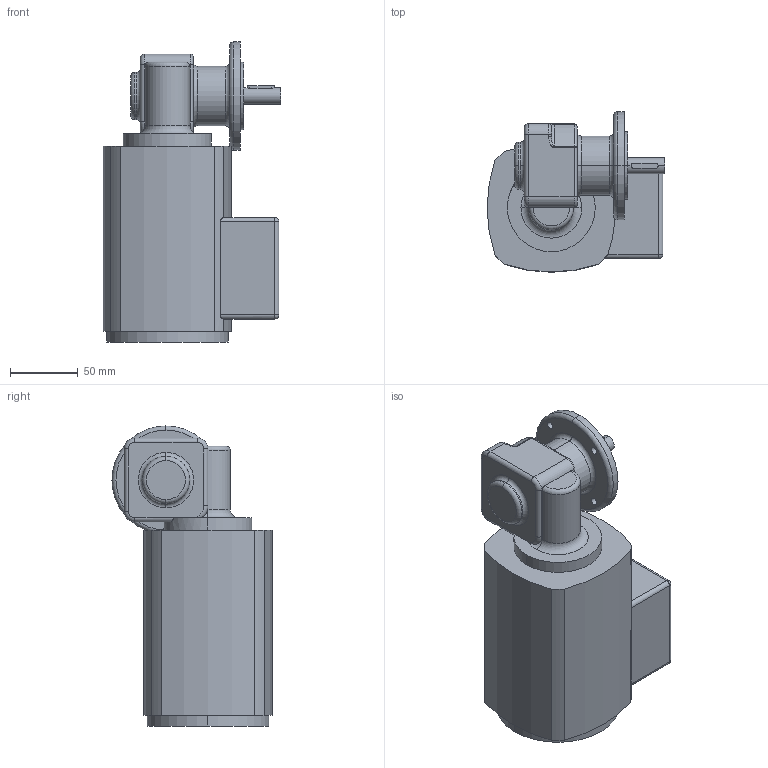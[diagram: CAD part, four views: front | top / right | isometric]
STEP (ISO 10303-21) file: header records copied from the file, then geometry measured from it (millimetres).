
FILE_DESCRIPTION (( 'STEP AP203' ), '1' );
FILE_NAME ('SN5FRUG-90W-B.STEP', '2013-09-16T13:07:12', ( '' ), ( '' ), 'SwSTEP 2.0', 'SolidWorks 2011', '' );
FILE_SCHEMA (( 'CONFIG_CONTROL_DESIGN' ));
Length unit declared in the file: millimetre
Products named in the file (3): SN5FRUG-90W-B; 90W-UG-Mot-of; SN5FR
Assembly tree (2 placements, depth 2):
  SN5FRUG-90W-B
    90W-UG-Mot-of
    SN5FR
Bounding box: 131.5 x 118.5 x 222 mm (x, y, z)
Volume: 1637039.7 mm3; surface area: 110645 mm2
Topology: 2 solids, 2 shells, 138 faces, 326 edges, 192 vertices
Faces by surface type: cylinder 70, plane 28, torus 28, sphere 8, bspline 4
Entity records: 4810 total; most frequent: CARTESIAN_POINT 1295, DIRECTION 743, ORIENTED_EDGE 640, EDGE_CURVE 320, AXIS2_PLACEMENT_3D 316, VERTEX_POINT 192, CIRCLE 177, EDGE_LOOP 152
